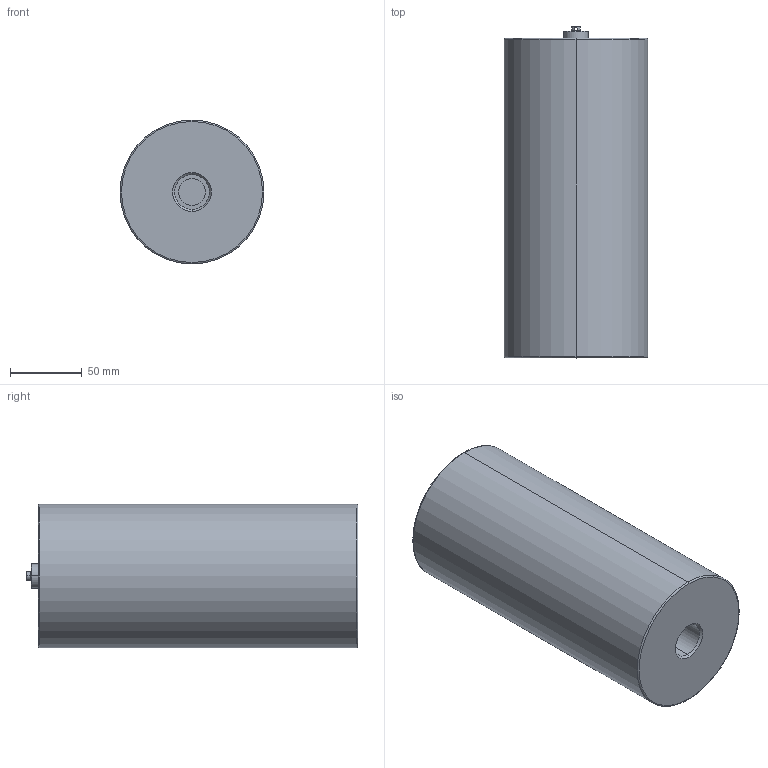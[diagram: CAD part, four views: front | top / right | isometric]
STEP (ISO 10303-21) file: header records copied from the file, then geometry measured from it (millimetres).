
FILE_DESCRIPTION (( 'STEP AP214' ), '1' );
FILE_NAME ('U007A01X1-PC.STEP', '2025-04-10T10:36:33', ( '' ), ( '' ), 'SwSTEP 2.0', 'SolidWorks 2024', '' );
FILE_SCHEMA (( 'AUTOMOTIVE_DESIGN' ));
Length unit declared in the file: millimetre
Products named in the file (1): U007A01X1-PC
Bounding box: 100 x 230.63 x 100 mm (x, y, z)
Volume: 1649256.9 mm3; surface area: 100926.8 mm2
Topology: 5 solids, 7 shells, 156 faces, 327 edges, 188 vertices
Faces by surface type: cylinder 45, torus 42, plane 41, cone 28
Entity records: 5919 total; most frequent: DIRECTION 822, CARTESIAN_POINT 778, ORIENTED_EDGE 654, AXIS2_PLACEMENT_3D 356, EDGE_CURVE 327, CIRCLE 199, VERTEX_POINT 188, EDGE_LOOP 171
